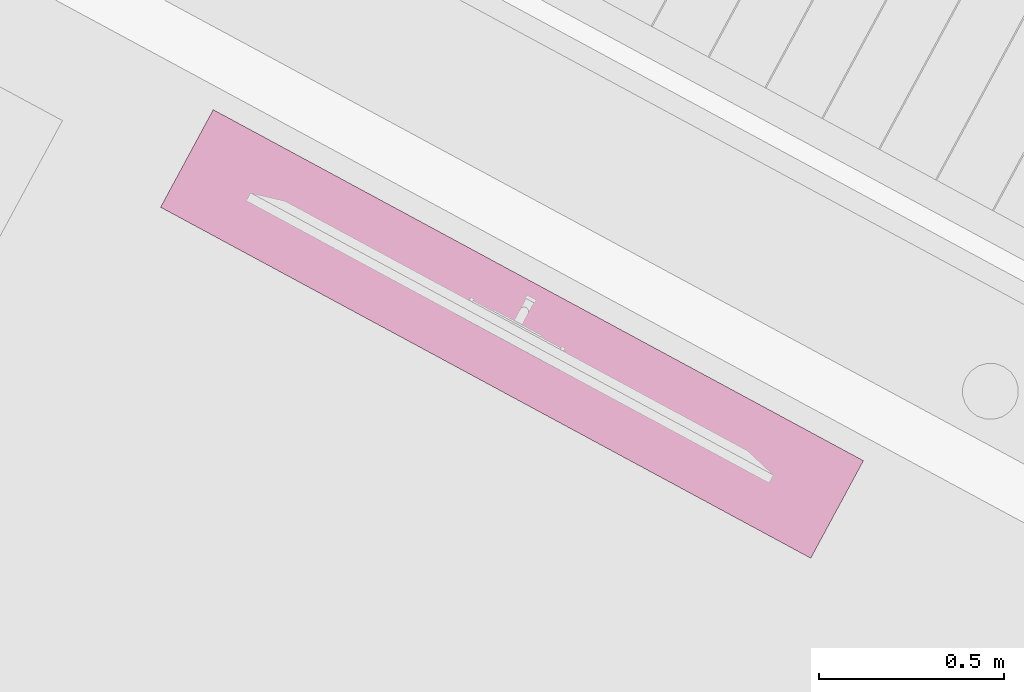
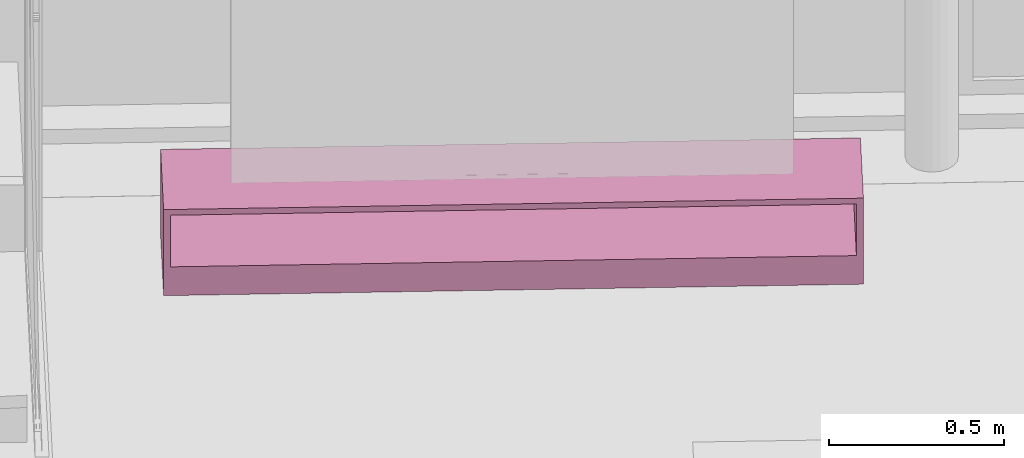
# One storey, part 34 of 48: 1 furnishing.
"""IFC2X3 building model written with IfcOpenShell, lengths in metres."""

from ifc_helpers import new_model, entity, si_unit, converted_unit, derived_unit, money_unit, direction, frame, origin_with_axes, place, context, subcontext, project, spatial, faceted_brep, type_object, element, save


model = new_model("IFC2X3")

# Units and contexts
model_context = context("Model", 3, precision=1e-05, world=origin_with_axes(), true_north=direction((0.0, 1.0)))
body_context = subcontext(model_context, "Body", "Model", "MODEL_VIEW")
ifc_project = project(units=[si_unit("LENGTHUNIT", "METRE"), si_unit("AREAUNIT", "SQUARE_METRE"), si_unit("VOLUMEUNIT", "CUBIC_METRE"), converted_unit("PLANEANGLEUNIT", "DEGREE", entity("IfcPlaneAngleMeasure", 0.0174532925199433), si_unit("PLANEANGLEUNIT", "RADIAN"), dimensions=[0, 0, 0, 0, 0, 0, 0]), money_unit("EUR"), converted_unit("TIMEUNIT", "Year", entity("IfcTimeMeasure", 31556926.0), si_unit("TIMEUNIT", "SECOND"), dimensions=[0, 0, 1, 0, 0, 0, 0]), si_unit("MASSUNIT", "GRAM", prefix="KILO"), si_unit("THERMODYNAMICTEMPERATUREUNIT", "DEGREE_CELSIUS"), si_unit("LUMINOUSINTENSITYUNIT", "LUMEN"), si_unit("ENERGYUNIT", "JOULE", prefix="MEGA"), derived_unit("THERMALCONDUCTANCEUNIT", [(si_unit("POWERUNIT", "WATT"), 1), (si_unit("LENGTHUNIT", "METRE"), -1), (si_unit("THERMODYNAMICTEMPERATUREUNIT", "KELVIN"), -1)]), derived_unit("SPECIFICHEATCAPACITYUNIT", [(si_unit("ENERGYUNIT", "JOULE"), 1), (si_unit("MASSUNIT", "GRAM", prefix="KILO"), -1), (si_unit("THERMODYNAMICTEMPERATUREUNIT", "KELVIN"), -1)]), derived_unit("MASSDENSITYUNIT", [(si_unit("MASSUNIT", "GRAM", prefix="KILO"), 1), (si_unit("VOLUMEUNIT", "CUBIC_METRE"), -1)])], contexts=[model_context])

# Site, building, storey
site_placement = place(None, frame((-3.949935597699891, 1.740105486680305, 0.0), z_axis=(0.0, 0.0, 1.0), x_axis=(0.8799804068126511, -0.475009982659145, 0.0)))
site = spatial("IfcSite", under=ifc_project, at=site_placement, Name="Gelände", CompositionType="ELEMENT")
building_placement = place(site_placement, origin_with_axes())
building = spatial("IfcBuilding", under=site, at=building_placement, Name="Gebäude", CompositionType="ELEMENT")
storey_placement = place(building_placement, frame((0.0, 0.0, 4.55), z_axis=(0.0, 0.0, 1.0), x_axis=(1.0, 0.0, 0.0)))
storey = spatial("IfcBuildingStorey", under=building, at=storey_placement, Name="Staffelgeschoss", CompositionType="ELEMENT", Elevation=4.55)

# Furnishing
furnishing_element_type = type_object("IfcFurnishingElementType", Name="Regal 1 22")
furnishing_placement = place(storey_placement, frame((18.12765048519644, 10.45938647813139, 0.0), z_axis=(0.0, 0.0, 1.0), x_axis=(1.0, 0.0, 0.0)))
element("IfcFurnishingElement", 1, at=furnishing_placement, inside=storey, type_object=furnishing_element_type, Name="Objekt-0070", context=body_context, shape_type="Brep", body=[
    faceted_brep([(1.980000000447, -0.00999999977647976, 0.0), (1.980000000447, -0.3000000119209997, 0.0), (0.01999999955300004, -0.300000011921, 0.0), (0.019999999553, -0.009999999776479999, 0.0), (1.980000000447, -0.00999999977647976, 0.10000000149), (1.980000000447, -0.3000000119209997, 0.10000000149), (0.01999999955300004, -0.300000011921, 0.10000000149), (0.019999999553, -0.009999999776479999, 0.10000000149)], [[[0, 1, 2, 3]], [[0, 4, 5, 1]], [[1, 5, 6, 2]], [[2, 6, 7, 3]], [[3, 7, 4, 0]], [[7, 6, 5, 4]]]),
    faceted_brep([(0.019999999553, 0.0, 0.0), (0.01999999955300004, -0.300000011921, 0.0), (0.0, -0.300000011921, 0.0), (0.0, 0.0, 0.0), (0.019999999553, 0.0, 0.3), (0.01999999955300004, -0.300000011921, 0.3), (0.0, -0.300000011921, 0.3), (0.0, 0.0, 0.3)], [[[0, 1, 2, 3]], [[0, 4, 5, 1]], [[1, 5, 6, 2]], [[2, 6, 7, 3]], [[3, 7, 4, 0]], [[7, 6, 5, 4]]]),
    faceted_brep([(2.0, 0.0, 0.0), (2.0, -0.3000000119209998, 0.0), (1.980000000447, -0.3000000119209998, 0.0), (1.980000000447, 0.0, 0.0), (2.0, 0.0, 0.3), (2.0, -0.3000000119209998, 0.3), (1.980000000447, -0.3000000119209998, 0.3), (1.980000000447, 0.0, 0.3)], [[[0, 1, 2, 3]], [[0, 4, 5, 1]], [[1, 5, 6, 2]], [[2, 6, 7, 3]], [[3, 7, 4, 0]], [[7, 6, 5, 4]]]),
    faceted_brep([(1.980000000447, 0.0, 0.0), (1.980000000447, -0.00999999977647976, 0.0), (0.019999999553, -0.009999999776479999, 0.0), (0.019999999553, 0.0, 0.0), (1.980000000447, 0.0, 0.280000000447), (1.980000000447, -0.00999999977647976, 0.280000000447), (0.019999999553, -0.009999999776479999, 0.280000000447), (0.019999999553, 0.0, 0.280000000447)], [[[0, 1, 2, 3]], [[0, 4, 5, 1]], [[1, 5, 6, 2]], [[2, 6, 7, 3]], [[3, 7, 4, 0]], [[7, 6, 5, 4]]]),
    faceted_brep([(1.980000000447, 0.0, 0.280000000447), (1.980000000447, -0.3000000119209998, 0.280000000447), (0.01999999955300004, -0.300000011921, 0.280000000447), (0.019999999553, 0.0, 0.280000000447), (1.980000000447, 0.0, 0.3), (1.980000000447, -0.3000000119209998, 0.3), (0.01999999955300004, -0.300000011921, 0.3), (0.019999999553, 0.0, 0.3)], [[[0, 1, 2, 3]], [[0, 4, 5, 1]], [[1, 5, 6, 2]], [[2, 6, 7, 3]], [[3, 7, 4, 0]], [[7, 6, 5, 4]]]),
])

save(model, "model.ifc")
